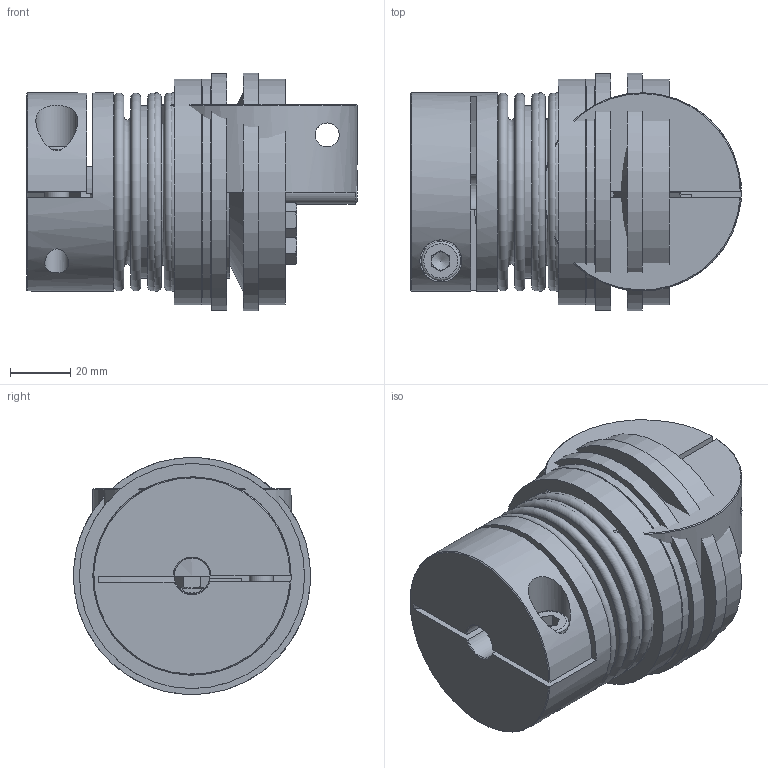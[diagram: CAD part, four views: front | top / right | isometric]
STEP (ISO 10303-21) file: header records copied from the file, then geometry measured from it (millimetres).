
FILE_DESCRIPTION( ( 'Unknown' ), '1' );
FILE_NAME( 'C:/Dokumente und Einstellungen/SKarpstein/Desktop/Korrigierte 3D Modelle/KBK-BKI-60-90.stp', 'Unknown', ( 'Unknown' ), ( 'Unknown' ), 'XStep 1.0', 'Unknown', ' ' );
FILE_SCHEMA( ( 'automotive_design' ) );
Length unit declared in the file: millimetre
Products named in the file (10): Assem1; Stellring 60; Druckring 60; KBK L-I-60 Grundkörper; Konusbuchse 60; din_en_24017_m6x20; Flansch BK60; KN60_Standard_2; Socket Head Cap Screw_DIN_DIN 912 M8 x 25 --- 25N_2; BK60_Standard_0
Bounding box: 110 x 79 x 79 mm (x, y, z)
Volume: 433914.2 mm3; surface area: 210786.9 mm2
Topology: 23 solids, 23 shells, 514 faces, 1074 edges, 689 vertices
Faces by surface type: plane 243, cylinder 118, cone 106, torus 47
Full cylindrical faces by diameter (mm): 3.242 x6, 4 x6, 4.917 x18, 6 x7, 6.6 x12, 8 x4, 8.5 x2, 8.8 x7, 12 x2, 13 x2, 14 x2, 15 x4, 30.2 x2, 33 x2, 35 x4, 42 x2, 46 x4, 46.5 x2, 47 x2, 49.5 x2, 56.3 x4, 57.3 x4, 61.3 x2, 66 x4, 75 x4, 79 x2
Entity records: 5756 total; most frequent: CARTESIAN_POINT 1347, DIRECTION 915, ORIENTED_EDGE 628, AXIS2_PLACEMENT_3D 417, EDGE_LOOP 366, EDGE_CURVE 314, FACE_OUTER_BOUND 274, VERTEX_POINT 253
